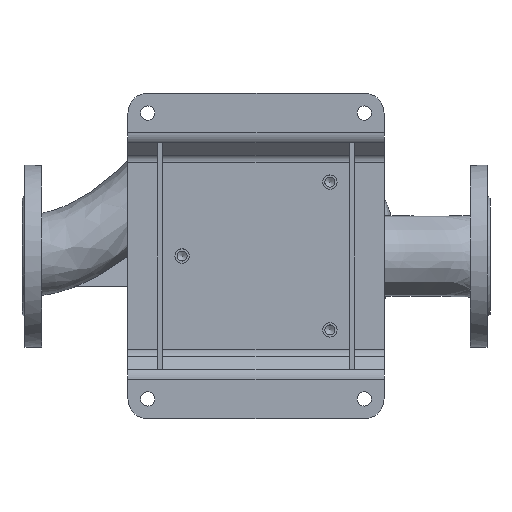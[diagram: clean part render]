
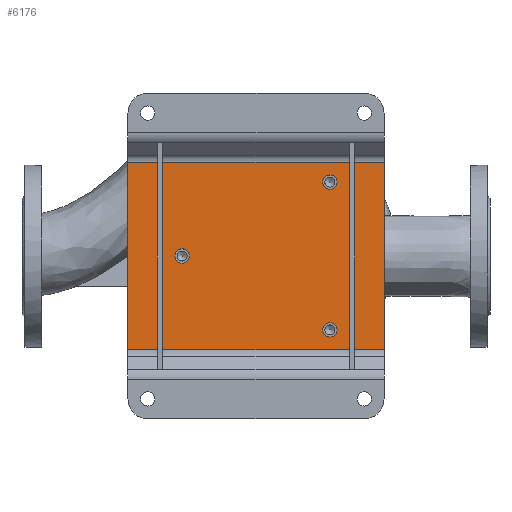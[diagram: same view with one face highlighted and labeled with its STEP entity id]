
A CAD part, top view. The second image highlights one B-rep face of the part: STEP entity #6176.
In plain terms, the highlighted planar face has unit normal (0, 0, 1) as drawn and (0, -1, 0) by its records, which use the part's own axes.
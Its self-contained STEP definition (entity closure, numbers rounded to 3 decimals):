
#56 = VERTEX_POINT ( 'NONE', #14420 ) ;
#691 = CARTESIAN_POINT ( 'NONE',  ( 95., -5., -130. ) ) ;
#770 = ORIENTED_EDGE ( 'NONE', *, *, #30930, .F. ) ;
#1664 = AXIS2_PLACEMENT_3D ( 'NONE', #43987, #18950, #32828 ) ;
#2239 = EDGE_CURVE ( 'NONE', #9614, #15133, #39634, .T. ) ;
#2749 = EDGE_LOOP ( 'NONE', ( #10589 ) ) ;
#4055 = DIRECTION ( 'NONE',  ( 0., -1., 0. ) ) ;
#5933 = AXIS2_PLACEMENT_3D ( 'NONE', #6998, #4055, #38002 ) ;
#6176 = ADVANCED_FACE ( 'NONE', ( #40348, #8912, #36924, #43339 ), #8470, .T. ) ;
#6998 = CARTESIAN_POINT ( 'NONE',  ( -75., -5., 75. ) ) ;
#8100 = DIRECTION ( 'NONE',  ( 0., 0., -1. ) ) ;
#8470 = PLANE ( 'NONE',  #1664 ) ;
#8531 = EDGE_CURVE ( 'NONE', #15133, #24147, #40285, .T. ) ;
#8912 = FACE_BOUND ( 'NONE', #20067, .T. ) ;
#9574 = VERTEX_POINT ( 'NONE', #691 ) ;
#9614 = VERTEX_POINT ( 'NONE', #15525 ) ;
#10589 = ORIENTED_EDGE ( 'NONE', *, *, #35403, .F. ) ;
#10793 = ORIENTED_EDGE ( 'NONE', *, *, #14931, .F. ) ;
#11765 = ORIENTED_EDGE ( 'NONE', *, *, #8531, .F. ) ;
#12063 = CARTESIAN_POINT ( 'NONE',  ( -95., -5., 130. ) ) ;
#12204 = DIRECTION ( 'NONE',  ( 0., -1., 0. ) ) ;
#12886 = EDGE_LOOP ( 'NONE', ( #13515 ) ) ;
#13515 = ORIENTED_EDGE ( 'NONE', *, *, #26744, .F. ) ;
#13751 = LINE ( 'NONE', #22798, #35038 ) ;
#14420 = CARTESIAN_POINT ( 'NONE',  ( -75., -5., 67.75 ) ) ;
#14931 = EDGE_CURVE ( 'NONE', #39353, #39353, #18055, .T. ) ;
#15133 = VERTEX_POINT ( 'NONE', #26785 ) ;
#15282 = ORIENTED_EDGE ( 'NONE', *, *, #2239, .F. ) ;
#15525 = CARTESIAN_POINT ( 'NONE',  ( -95., -5., -130. ) ) ;
#15851 = CARTESIAN_POINT ( 'NONE',  ( 0., -5., -75. ) ) ;
#16316 = AXIS2_PLACEMENT_3D ( 'NONE', #33344, #40652, #36790 ) ;
#17335 = LINE ( 'NONE', #30782, #38519 ) ;
#18055 = CIRCLE ( 'NONE', #25251, 7.25 ) ;
#18457 = CARTESIAN_POINT ( 'NONE',  ( -95., -5., 130. ) ) ;
#18950 = DIRECTION ( 'NONE',  ( 0., -1., 0. ) ) ;
#19214 = EDGE_CURVE ( 'NONE', #24147, #9574, #17335, .T. ) ;
#20067 = EDGE_LOOP ( 'NONE', ( #10793 ) ) ;
#22138 = CIRCLE ( 'NONE', #16316, 7.25 ) ;
#22528 = DIRECTION ( 'NONE',  ( 1., 0., 0. ) ) ;
#22798 = CARTESIAN_POINT ( 'NONE',  ( -95., -5., -130. ) ) ;
#24147 = VERTEX_POINT ( 'NONE', #28888 ) ;
#25249 = CARTESIAN_POINT ( 'NONE',  ( 0., -5., -82.25 ) ) ;
#25251 = AXIS2_PLACEMENT_3D ( 'NONE', #15851, #12204, #8100 ) ;
#25294 = DIRECTION ( 'NONE',  ( 0., 0., 1. ) ) ;
#25926 = VERTEX_POINT ( 'NONE', #43444 ) ;
#26744 = EDGE_CURVE ( 'NONE', #25926, #25926, #22138, .T. ) ;
#26785 = CARTESIAN_POINT ( 'NONE',  ( -95., -5., 130. ) ) ;
#28888 = CARTESIAN_POINT ( 'NONE',  ( 95., -5., 130. ) ) ;
#30782 = CARTESIAN_POINT ( 'NONE',  ( 95., -5., 130. ) ) ;
#30930 = EDGE_CURVE ( 'NONE', #9574, #9614, #13751, .T. ) ;
#32828 = DIRECTION ( 'NONE',  ( 0., 0., -1. ) ) ;
#33344 = CARTESIAN_POINT ( 'NONE',  ( 75., -5., 75. ) ) ;
#35038 = VECTOR ( 'NONE', #40323, 1000. ) ;
#35403 = EDGE_CURVE ( 'NONE', #56, #56, #37940, .T. ) ;
#36790 = DIRECTION ( 'NONE',  ( 0., 0., -1. ) ) ;
#36924 = FACE_BOUND ( 'NONE', #2749, .T. ) ;
#37621 = DIRECTION ( 'NONE',  ( 0., 0., -1. ) ) ;
#37940 = CIRCLE ( 'NONE', #5933, 7.25 ) ;
#38002 = DIRECTION ( 'NONE',  ( 0., 0., -1. ) ) ;
#38145 = ORIENTED_EDGE ( 'NONE', *, *, #19214, .F. ) ;
#38519 = VECTOR ( 'NONE', #37621, 1000. ) ;
#39353 = VERTEX_POINT ( 'NONE', #25249 ) ;
#39634 = LINE ( 'NONE', #18457, #40089 ) ;
#40089 = VECTOR ( 'NONE', #25294, 1000. ) ;
#40285 = LINE ( 'NONE', #12063, #43758 ) ;
#40323 = DIRECTION ( 'NONE',  ( -1., 0., 0. ) ) ;
#40348 = FACE_BOUND ( 'NONE', #12886, .T. ) ;
#40622 = EDGE_LOOP ( 'NONE', ( #38145, #11765, #15282, #770 ) ) ;
#40652 = DIRECTION ( 'NONE',  ( 0., -1., 0. ) ) ;
#43339 = FACE_OUTER_BOUND ( 'NONE', #40622, .T. ) ;
#43444 = CARTESIAN_POINT ( 'NONE',  ( 75., -5., 67.75 ) ) ;
#43758 = VECTOR ( 'NONE', #22528, 1000. ) ;
#43987 = CARTESIAN_POINT ( 'NONE',  ( 0., -5., 0. ) ) ;
